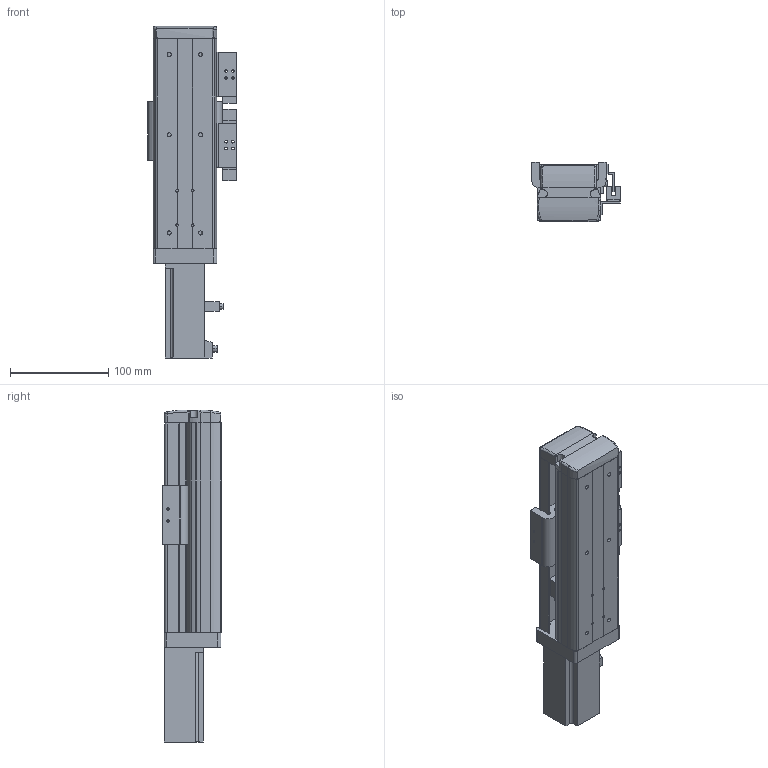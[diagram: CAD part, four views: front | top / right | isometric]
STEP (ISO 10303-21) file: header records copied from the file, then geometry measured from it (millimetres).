
FILE_DESCRIPTION (( 'STEP AP203' ), '1' );
FILE_NAME ('EXT65A-S50.STEP', '2015-12-15T06:58:14', ( 'QQ' ), ( '' ), 'SwSTEP 2.0', 'SolidWorks 2013', '' );
FILE_SCHEMA (( 'CONFIG_CONTROL_DESIGN' ));
Length unit declared in the file: millimetre
Products named in the file (1): EXT65A-S50
Bounding box: 90.5 x 60 x 338.5 mm (x, y, z)
Volume: 678942 mm3; surface area: 239885.4 mm2
Topology: 22 solids, 22 shells, 869 faces, 2322 edges, 1536 vertices
Faces by surface type: cylinder 418, plane 401, bspline 38, cone 12
Entity records: 29999 total; most frequent: CARTESIAN_POINT 7406, DIRECTION 4776, ORIENTED_EDGE 4642, EDGE_CURVE 2321, AXIS2_PLACEMENT_3D 1728, VERTEX_POINT 1536, VECTOR 1320, LINE 1320
